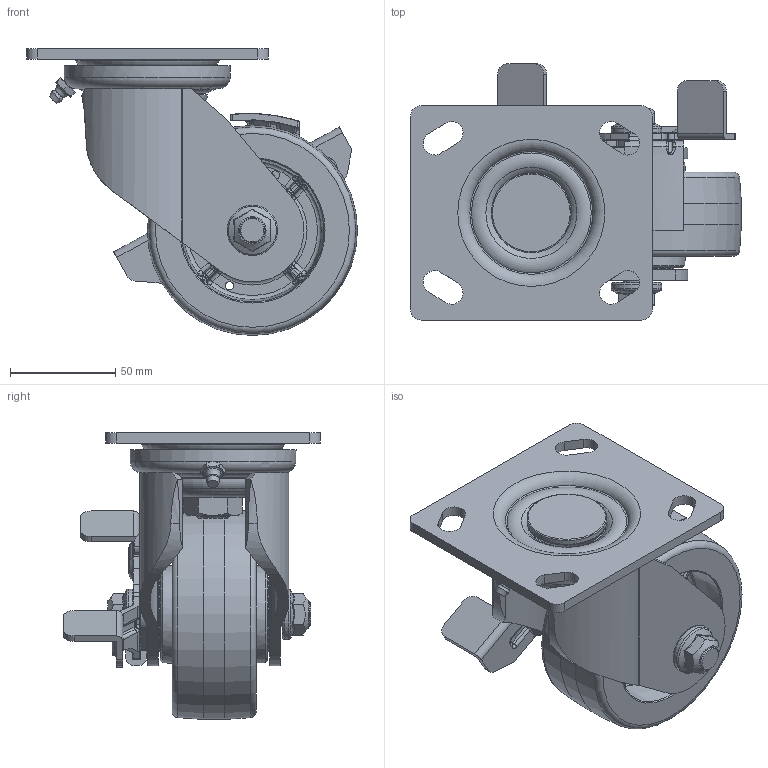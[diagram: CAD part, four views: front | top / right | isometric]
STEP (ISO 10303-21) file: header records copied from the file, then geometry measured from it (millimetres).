
FILE_DESCRIPTION((''),'2;1');
FILE_NAME('C:\Documents and Settings\Administrator\바탕 화면\3D STEP\PM-SERIES\PM-100B-SF\PM-100B-SF.stp','2010-12-27T15:05:09',('Administrator'),(''),'Autodesk Inventor 2009','Autodesk Inventor 2009','');
FILE_SCHEMA(('AUTOMOTIVE_DESIGN { 1 0 10303 214 1 1 1 1 }'));
Length unit declared in the file: millimetre
Products named in the file (1): PM-100B-SF
Bounding box: 157.5 x 122 x 136.53 mm (x, y, z)
Volume: 460688.1 mm3; surface area: 163341.6 mm2
Topology: 5 solids, 29 shells, 976 faces, 2437 edges, 1481 vertices
Faces by surface type: bspline 362, cylinder 240, plane 233, cone 55, torus 44, sphere 42
Full cylindrical faces by diameter (mm): 4 x2, 6 x1, 12 x2, 15 x2, 15.2 x2, 16 x2, 18 x3, 21.5 x1, 24 x2, 30.5 x2, 35 x2, 35.18 x2, 35.23 x1, 38 x1, 41.192 x1, 61.087 x1, 69 x1, 79 x1, 100 x1
Entity records: 49431 total; most frequent: CARTESIAN_POINT 28603, ORIENTED_EDGE 4372, DIRECTION 4153, EDGE_CURVE 2186, AXIS2_PLACEMENT_3D 1766, VERTEX_POINT 1414, EDGE_LOOP 1156, CIRCLE 1093
